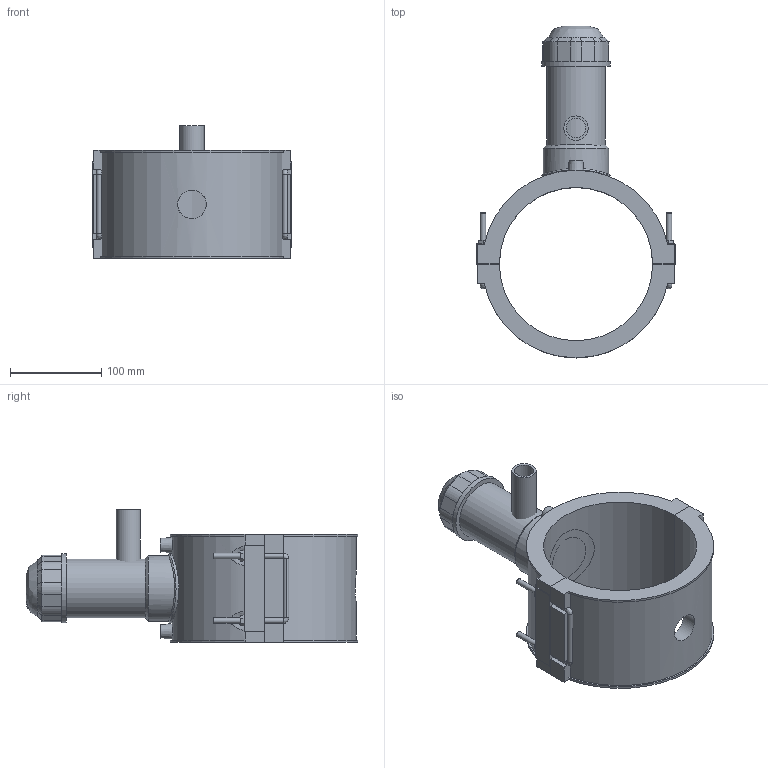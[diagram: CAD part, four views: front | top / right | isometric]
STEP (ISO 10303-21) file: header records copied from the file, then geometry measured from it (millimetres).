
FILE_DESCRIPTION(/* description */ ('PLASSON TAPPING SADDLE 6''''IPS x 3/4''''IPS'),/* implementation_level */ '2;1');
FILE_NAME(/* name */ 'C:\Dropbox\KIMPROJECTS-Inventor 2019\99-16-3568-Processing Inch\ASTM ElectroFusion 2021\5963BBP_5963BUP\5963BBP3060007.ipt.stp',/* time_stamp */ '2021-08-30T09:57:15+03:00',/* author */ ('KIM'),/* organization */ (''),/* preprocessor_version */ 'ST-DEVELOPER v17.2',/* originating_system */ 'Autodesk Inventor 2019',/* authorisation */ '');
FILE_SCHEMA (('AUTOMOTIVE_DESIGN { 1 0 10303 214 3 1 1 }'));
Length unit declared in the file: inch
Products named in the file (1): 5963BBP3060007
Bounding box: 217.9 x 363.85 x 145.16 mm (x, y, z)
Volume: 1607860.1 mm3; surface area: 270884.5 mm2
Topology: 3 solids, 3 shells, 187 faces, 489 edges, 313 vertices
Faces by surface type: plane 115, cylinder 47, cone 15, bspline 10
Full cylindrical faces by diameter (mm): 4 x2, 6 x8, 10 x2, 21.28 x1, 26.6 x1, 31.36 x1, 52.92 x1, 64.26 x1, 71.82 x1, 75.6 x2
Entity records: 6744 total; most frequent: CARTESIAN_POINT 2109, ORIENTED_EDGE 962, DIRECTION 932, EDGE_CURVE 481, AXIS2_PLACEMENT_3D 315, VERTEX_POINT 313, LINE 302, VECTOR 302
